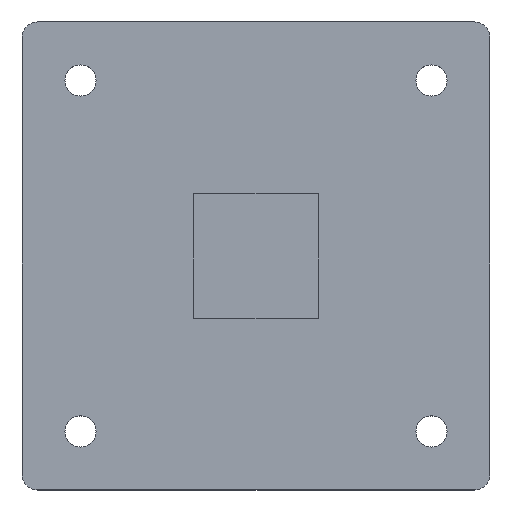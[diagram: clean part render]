
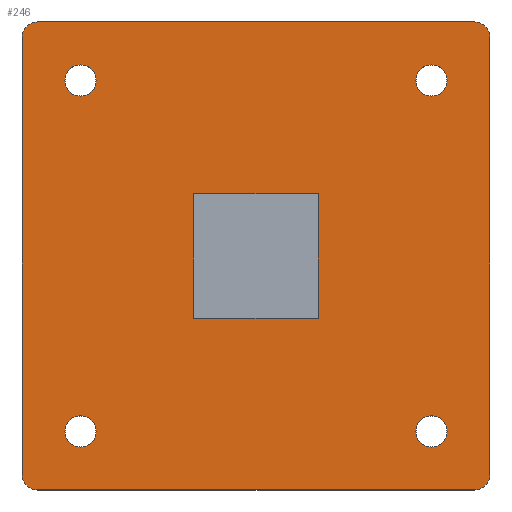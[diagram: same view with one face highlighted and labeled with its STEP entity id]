
A CAD part, top view. The second image highlights one B-rep face of the part: STEP entity #246.
In plain terms, the highlighted planar face has unit normal (0, 0, 1).
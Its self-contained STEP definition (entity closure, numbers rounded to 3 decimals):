
#202 = VERTEX_POINT( '', #570 );
#212 = VERTEX_POINT( '', #581 );
#218 = EDGE_CURVE( '', #408, #212, #587, .T. );
#238 = VERTEX_POINT( '', #609 );
#242 = EDGE_CURVE( '', #420, #318, #613, .T. );
#246 = ADVANCED_FACE( '', ( #618, #619, #620, #621, #622, #623 ), #624, .T. );
#250 = EDGE_CURVE( '', #446, #476, #628, .T. );
#258 = EDGE_CURVE( '', #304, #446, #636, .T. );
#268 = EDGE_CURVE( '', #480, #380, #647, .T. );
#280 = VERTEX_POINT( '', #660 );
#284 = EDGE_CURVE( '', #318, #420, #665, .T. );
#286 = VERTEX_POINT( '', #667 );
#296 = VERTEX_POINT( '', #678 );
#304 = VERTEX_POINT( '', #687 );
#308 = EDGE_CURVE( '', #476, #286, #691, .T. );
#310 = VERTEX_POINT( '', #693 );
#318 = VERTEX_POINT( '', #701 );
#326 = EDGE_CURVE( '', #492, #304, #709, .T. );
#338 = EDGE_CURVE( '', #238, #466, #722, .T. );
#354 = EDGE_CURVE( '', #286, #480, #738, .T. );
#372 = EDGE_CURVE( '', #466, #550, #766, .T. );
#380 = VERTEX_POINT( '', #775 );
#408 = VERTEX_POINT( '', #804 );
#410 = VERTEX_POINT( '', #806 );
#418 = EDGE_CURVE( '', #536, #280, #816, .T. );
#420 = VERTEX_POINT( '', #818 );
#434 = EDGE_CURVE( '', #212, #408, #836, .T. );
#444 = EDGE_CURVE( '', #410, #310, #846, .T. );
#446 = VERTEX_POINT( '', #848 );
#460 = EDGE_CURVE( '', #310, #410, #864, .T. );
#466 = VERTEX_POINT( '', #870 );
#476 = VERTEX_POINT( '', #884 );
#480 = VERTEX_POINT( '', #888 );
#492 = VERTEX_POINT( '', #902 );
#498 = EDGE_CURVE( '', #550, #202, #910, .T. );
#524 = EDGE_CURVE( '', #380, #296, #938, .T. );
#530 = EDGE_CURVE( '', #280, #536, #945, .T. );
#532 = EDGE_CURVE( '', #296, #492, #947, .T. );
#536 = VERTEX_POINT( '', #952 );
#544 = EDGE_CURVE( '', #202, #238, #960, .T. );
#550 = VERTEX_POINT( '', #966 );
#570 = CARTESIAN_POINT( '', ( 8., -8., 0. ) );
#581 = CARTESIAN_POINT( '', ( 20.5, -22.5, 0. ) );
#587 = CIRCLE( '', #1002, 2. );
#609 = CARTESIAN_POINT( '', ( -8., -8., 0. ) );
#613 = CIRCLE( '', #1034, 2. );
#618 = FACE_BOUND( '', #1039, .T. );
#619 = FACE_OUTER_BOUND( '', #1040, .T. );
#620 = FACE_BOUND( '', #1041, .T. );
#621 = FACE_BOUND( '', #1042, .T. );
#622 = FACE_BOUND( '', #1043, .T. );
#623 = FACE_BOUND( '', #1044, .T. );
#624 = PLANE( '', #1045 );
#628 = CIRCLE( '', #1051, 2. );
#636 = LINE( '', #1065, #1066 );
#647 = LINE( '', #1078, #1079 );
#660 = CARTESIAN_POINT( '', ( -24.5, -22.5, 0. ) );
#665 = CIRCLE( '', #1102, 2. );
#667 = CARTESIAN_POINT( '', ( -30., 28., 0. ) );
#678 = CARTESIAN_POINT( '', ( 30., 28., 0. ) );
#687 = CARTESIAN_POINT( '', ( 28., -30., 0. ) );
#691 = LINE( '', #1138, #1139 );
#693 = CARTESIAN_POINT( '', ( 20.5, 22.5, 0. ) );
#701 = CARTESIAN_POINT( '', ( -20.5, 22.5, 0. ) );
#709 = CIRCLE( '', #1160, 2. );
#722 = LINE( '', #1179, #1180 );
#738 = CIRCLE( '', #1206, 2. );
#766 = LINE( '', #1240, #1241 );
#775 = CARTESIAN_POINT( '', ( 28., 30., 0. ) );
#804 = CARTESIAN_POINT( '', ( 24.5, -22.5, 0. ) );
#806 = CARTESIAN_POINT( '', ( 24.5, 22.5, 0. ) );
#816 = CIRCLE( '', #1301, 2. );
#818 = CARTESIAN_POINT( '', ( -24.5, 22.5, 0. ) );
#836 = CIRCLE( '', #1324, 2. );
#846 = CIRCLE( '', #1338, 2. );
#848 = CARTESIAN_POINT( '', ( -28., -30., 0. ) );
#864 = CIRCLE( '', #1361, 2. );
#870 = CARTESIAN_POINT( '', ( -8., 8., 0. ) );
#884 = CARTESIAN_POINT( '', ( -30., -28., 0. ) );
#888 = CARTESIAN_POINT( '', ( -28., 30., 0. ) );
#902 = CARTESIAN_POINT( '', ( 30., -28., 0. ) );
#910 = LINE( '', #1418, #1419 );
#938 = CIRCLE( '', #1462, 2. );
#945 = CIRCLE( '', #1471, 2. );
#947 = LINE( '', #1474, #1475 );
#952 = CARTESIAN_POINT( '', ( -20.5, -22.5, 0. ) );
#960 = LINE( '', #1491, #1492 );
#966 = CARTESIAN_POINT( '', ( 8., 8., 0. ) );
#1002 = AXIS2_PLACEMENT_3D( '', #1518, #1519, #1520 );
#1034 = AXIS2_PLACEMENT_3D( '', #1542, #1543, #1544 );
#1039 = EDGE_LOOP( '', ( #1554, #1555, #1556, #1557 ) );
#1040 = EDGE_LOOP( '', ( #1558, #1559, #1560, #1561, #1562, #1563, #1564, #1565 ) );
#1041 = EDGE_LOOP( '', ( #1566, #1567 ) );
#1042 = EDGE_LOOP( '', ( #1568, #1569 ) );
#1043 = EDGE_LOOP( '', ( #1570, #1571 ) );
#1044 = EDGE_LOOP( '', ( #1572, #1573 ) );
#1045 = AXIS2_PLACEMENT_3D( '', #1574, #1575, #1576 );
#1051 = AXIS2_PLACEMENT_3D( '', #1580, #1581, #1582 );
#1065 = CARTESIAN_POINT( '', ( -28., -30., 0. ) );
#1066 = VECTOR( '', #1588, 1. );
#1078 = CARTESIAN_POINT( '', ( 28., 30., 0. ) );
#1079 = VECTOR( '', #1597, 1. );
#1102 = AXIS2_PLACEMENT_3D( '', #1626, #1627, #1628 );
#1138 = CARTESIAN_POINT( '', ( -30., 28., 0. ) );
#1139 = VECTOR( '', #1652, 1. );
#1160 = AXIS2_PLACEMENT_3D( '', #1659, #1660, #1661 );
#1179 = CARTESIAN_POINT( '', ( -8., -4., 0. ) );
#1180 = VECTOR( '', #1675, 1. );
#1206 = AXIS2_PLACEMENT_3D( '', #1683, #1684, #1685 );
#1240 = CARTESIAN_POINT( '', ( -4., 8., 0. ) );
#1241 = VECTOR( '', #1743, 1. );
#1301 = AXIS2_PLACEMENT_3D( '', #1792, #1793, #1794 );
#1324 = AXIS2_PLACEMENT_3D( '', #1822, #1823, #1824 );
#1338 = AXIS2_PLACEMENT_3D( '', #1829, #1830, #1831 );
#1361 = AXIS2_PLACEMENT_3D( '', #1850, #1851, #1852 );
#1418 = CARTESIAN_POINT( '', ( 8., 4., 0. ) );
#1419 = VECTOR( '', #1914, 1. );
#1462 = AXIS2_PLACEMENT_3D( '', #1938, #1939, #1940 );
#1471 = AXIS2_PLACEMENT_3D( '', #1952, #1953, #1954 );
#1474 = CARTESIAN_POINT( '', ( 30., -28., 0. ) );
#1475 = VECTOR( '', #1955, 1. );
#1491 = CARTESIAN_POINT( '', ( 4., -8., 0. ) );
#1492 = VECTOR( '', #1970, 1. );
#1518 = CARTESIAN_POINT( '', ( 22.5, -22.5, 0. ) );
#1519 = DIRECTION( '', ( 0., 0., 1. ) );
#1520 = DIRECTION( '', ( 1., 0., 0. ) );
#1542 = CARTESIAN_POINT( '', ( -22.5, 22.5, 0. ) );
#1543 = DIRECTION( '', ( 0., 0., 1. ) );
#1544 = DIRECTION( '', ( 1., 0., 0. ) );
#1554 = ORIENTED_EDGE( '', *, *, #372, .T. );
#1555 = ORIENTED_EDGE( '', *, *, #498, .T. );
#1556 = ORIENTED_EDGE( '', *, *, #544, .T. );
#1557 = ORIENTED_EDGE( '', *, *, #338, .T. );
#1558 = ORIENTED_EDGE( '', *, *, #308, .F. );
#1559 = ORIENTED_EDGE( '', *, *, #250, .F. );
#1560 = ORIENTED_EDGE( '', *, *, #258, .F. );
#1561 = ORIENTED_EDGE( '', *, *, #326, .F. );
#1562 = ORIENTED_EDGE( '', *, *, #532, .F. );
#1563 = ORIENTED_EDGE( '', *, *, #524, .F. );
#1564 = ORIENTED_EDGE( '', *, *, #268, .F. );
#1565 = ORIENTED_EDGE( '', *, *, #354, .F. );
#1566 = ORIENTED_EDGE( '', *, *, #218, .F. );
#1567 = ORIENTED_EDGE( '', *, *, #434, .F. );
#1568 = ORIENTED_EDGE( '', *, *, #444, .F. );
#1569 = ORIENTED_EDGE( '', *, *, #460, .F. );
#1570 = ORIENTED_EDGE( '', *, *, #418, .F. );
#1571 = ORIENTED_EDGE( '', *, *, #530, .F. );
#1572 = ORIENTED_EDGE( '', *, *, #284, .F. );
#1573 = ORIENTED_EDGE( '', *, *, #242, .F. );
#1574 = CARTESIAN_POINT( '', ( 0., 0., 0. ) );
#1575 = DIRECTION( '', ( 0., 0., 1. ) );
#1576 = DIRECTION( '', ( 1., 0., 0. ) );
#1580 = CARTESIAN_POINT( '', ( -28., -28., 0. ) );
#1581 = DIRECTION( '', ( 0., 0., -1. ) );
#1582 = DIRECTION( '', ( -1., 0., 0. ) );
#1588 = DIRECTION( '', ( -1., 0., 0. ) );
#1597 = DIRECTION( '', ( 1., 0., 0. ) );
#1626 = CARTESIAN_POINT( '', ( -22.5, 22.5, 0. ) );
#1627 = DIRECTION( '', ( 0., 0., 1. ) );
#1628 = DIRECTION( '', ( 1., 0., 0. ) );
#1652 = DIRECTION( '', ( 0., 1., 0. ) );
#1659 = CARTESIAN_POINT( '', ( 28., -28., 0. ) );
#1660 = DIRECTION( '', ( 0., 0., -1. ) );
#1661 = DIRECTION( '', ( 0., -1., 0. ) );
#1675 = DIRECTION( '', ( 0., 1., 0. ) );
#1683 = CARTESIAN_POINT( '', ( -28., 28., 0. ) );
#1684 = DIRECTION( '', ( 0., 0., -1. ) );
#1685 = DIRECTION( '', ( 0., 1., 0. ) );
#1743 = DIRECTION( '', ( 1., 0., 0. ) );
#1792 = CARTESIAN_POINT( '', ( -22.5, -22.5, 0. ) );
#1793 = DIRECTION( '', ( 0., 0., 1. ) );
#1794 = DIRECTION( '', ( 1., 0., 0. ) );
#1822 = CARTESIAN_POINT( '', ( 22.5, -22.5, 0. ) );
#1823 = DIRECTION( '', ( 0., 0., 1. ) );
#1824 = DIRECTION( '', ( 1., 0., 0. ) );
#1829 = CARTESIAN_POINT( '', ( 22.5, 22.5, 0. ) );
#1830 = DIRECTION( '', ( 0., 0., 1. ) );
#1831 = DIRECTION( '', ( 1., 0., 0. ) );
#1850 = CARTESIAN_POINT( '', ( 22.5, 22.5, 0. ) );
#1851 = DIRECTION( '', ( 0., 0., 1. ) );
#1852 = DIRECTION( '', ( 1., 0., 0. ) );
#1914 = DIRECTION( '', ( 0., -1., 0. ) );
#1938 = CARTESIAN_POINT( '', ( 28., 28., 0. ) );
#1939 = DIRECTION( '', ( 0., 0., -1. ) );
#1940 = DIRECTION( '', ( 1., 0., 0. ) );
#1952 = CARTESIAN_POINT( '', ( -22.5, -22.5, 0. ) );
#1953 = DIRECTION( '', ( 0., 0., 1. ) );
#1954 = DIRECTION( '', ( 1., 0., 0. ) );
#1955 = DIRECTION( '', ( 0., -1., 0. ) );
#1970 = DIRECTION( '', ( -1., 0., 0. ) );
